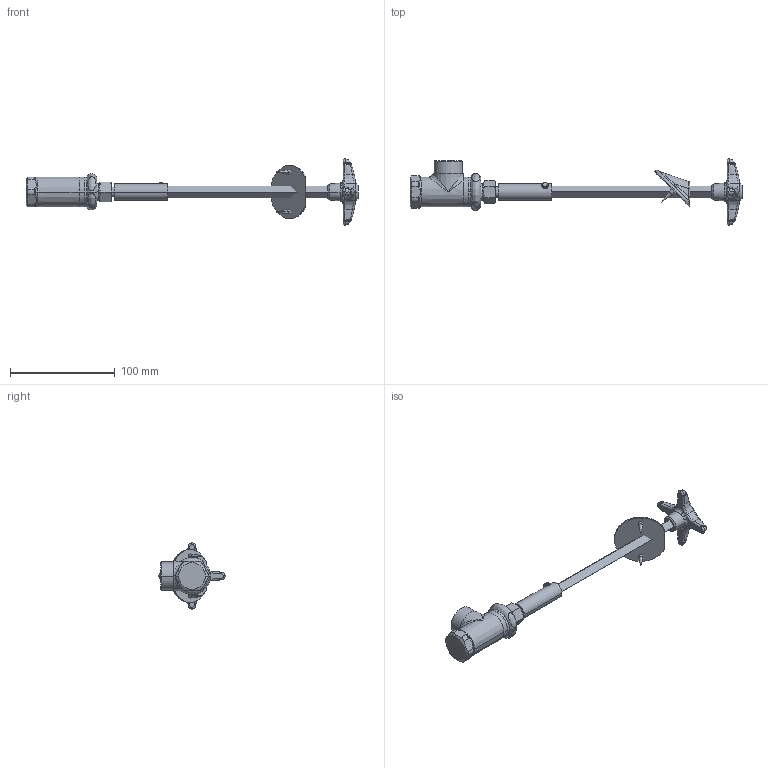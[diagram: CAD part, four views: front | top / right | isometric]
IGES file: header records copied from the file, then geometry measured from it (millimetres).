
Start section:  PTC IGES file: LRV-N6-A1F.igs
Global section: file name: LRV-N6-A1F.igs; native system: Creo Parametric by PTC Inc.; preprocessor: 2014500; author: usch_engrender; organization: Unknown; date: 20160209.100140; units: inch
Bounding box: 317.27 x 63.41 x 63.41 mm (x, y, z)
Surface area: 32532.8 mm2 (no closed solid volume)
Topology: 0 solids, 24 shells, 345 faces, 924 edges, 594 vertices
Faces by surface type: bspline 228, revolution 117
